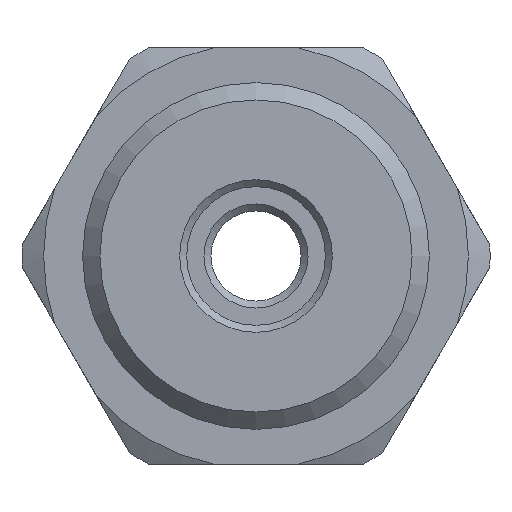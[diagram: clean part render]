
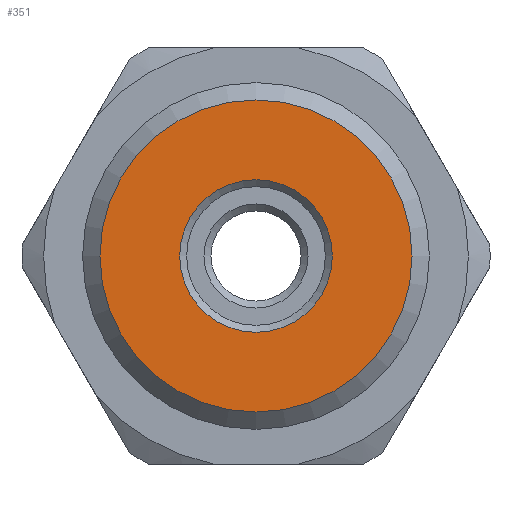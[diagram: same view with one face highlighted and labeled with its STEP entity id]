
A CAD part, left-side view. The second image highlights one B-rep face of the part: STEP entity #351.
In plain terms, the highlighted planar face has unit normal (-1, 0, 0).
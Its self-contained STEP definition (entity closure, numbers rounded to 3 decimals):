
#351=ADVANCED_FACE('',(#900,#901),#902,.T.);
#469=EDGE_CURVE('',#1088,#1088,#1089,.T.);
#483=EDGE_CURVE('',#1109,#1109,#1110,.T.);
#900=FACE_BOUND('',#1588,.T.);
#901=FACE_OUTER_BOUND('',#1589,.T.);
#902=PLANE('',#1590);
#1088=VERTEX_POINT('',#1849);
#1089=CIRCLE('',#1850,2.2);
#1109=VERTEX_POINT('',#1879);
#1110=CIRCLE('',#1880,4.5);
#1588=EDGE_LOOP('',(#3021));
#1589=EDGE_LOOP('',(#3022));
#1590=AXIS2_PLACEMENT_3D('',#3023,#3024,#3025);
#1849=CARTESIAN_POINT('',(-11.0,-2.2,0.0));
#1850=AXIS2_PLACEMENT_3D('',#3328,#3329,#3330);
#1879=CARTESIAN_POINT('',(-11.0,-4.5,0.0));
#1880=AXIS2_PLACEMENT_3D('',#3345,#3346,#3347);
#3021=ORIENTED_EDGE('',*,*,#469,.F.);
#3022=ORIENTED_EDGE('',*,*,#483,.F.);
#3023=CARTESIAN_POINT('',(-11.0,0.,0.));
#3024=DIRECTION('',(-1.0,0.0,0.0));
#3025=DIRECTION('',(0.0,0.0,1.0));
#3328=CARTESIAN_POINT('',(-11.0,0.0,0.0));
#3329=DIRECTION('',(-1.0,0.0,0.0));
#3330=DIRECTION('',(0.0,-1.0,0.0));
#3345=CARTESIAN_POINT('',(-11.0,0.0,0.0));
#3346=DIRECTION('',(1.0,0.0,0.0));
#3347=DIRECTION('',(0.0,-1.0,0.0));
